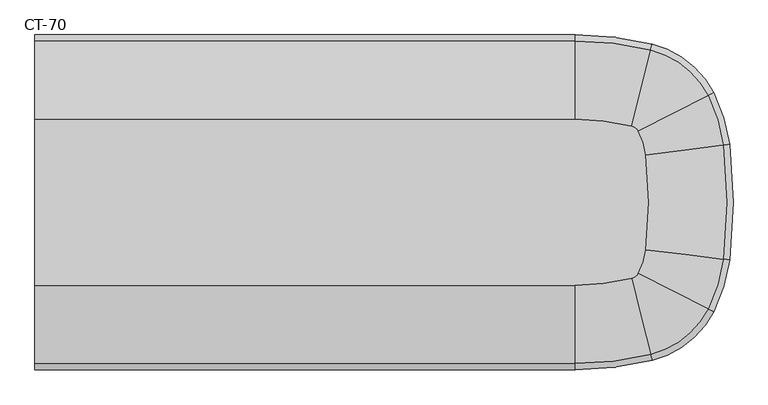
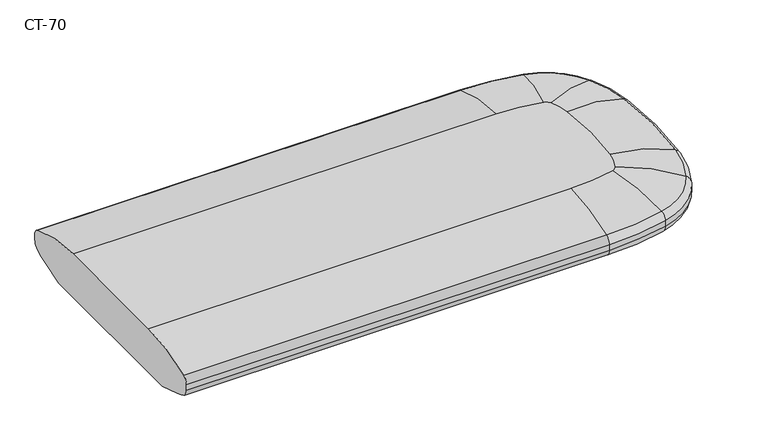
"""IFC4 building model written with IfcOpenShell, lengths in millimetres: furniture geometry, Davis_Furniture-Cantina-Backless_Bench_End : CT-70."""

from ifc_helpers import new_model, si_unit, point, frame, origin, place, context, project, spatial, polyline, circle_curve, ellipse_curve, trimmed, source, transform, mapped, element, save
from ifc_brep_helpers import plane_surface, cylinder_surface, revolved_surface, advanced_brep


def ct_70_526bd046(model_context):
    return source(origin(), model_context, "Body", "AdvancedBrep", [
        advanced_brep(
        [(499.6409128, -297.6255583, 384.3379698), (499.6409128, -297.6255583, 397.7963214), (355.6, -315.0780274, 397.7963214), (355.6, -315.0780274, 384.3379698), (355.6, -304.2732811, 364.5800367), (497.0605174, -287.1334611, 364.5800367), (355.6, -292.5675411, 358.7017243), (494.2649463, -275.7664417, 358.7017243), (355.6, -276.0441436, 352.9828937), (490.3188196, -259.7211699, 352.9828937), (355.6, -215.4858439, 333.8794297), (475.8562537, -200.9152021, 333.8794297), (496.8246288, -286.174319, 415.40969), (461.728152, -143.4691927, 444.5), (355.6, -156.3280274, 444.5), (355.6, -303.2855579, 415.40969), (615.3654955, -206.1477202, 384.3379698), (615.3654955, -206.1477202, 397.7963214), (605.7526212, -201.2146491, 364.5800367), (595.3381418, -195.8702156, 358.7017243), (580.637441, -188.3262075, 352.9828937), (526.7593298, -160.6773957, 333.8794297), (604.8738538, -200.763689, 415.40969), (474.1272144, -133.6679958, 444.5), (645.3484189, -108.6770068, 384.3379698), (645.3484189, -108.6770068, 397.7963214), (634.624926, -107.3544169, 364.5800367), (623.0072151, -105.921538, 358.7017243), (606.6080763, -103.8989381, 352.9828937), (546.505185, -96.4861037, 333.8794297), (633.6446307, -107.2335114, 415.40969), (487.792245, -89.2446999, 444.5), (645.3484189, 108.6770068, 384.3379698), (645.3484189, 108.6770068, 397.7963214), (634.624926, 107.3544169, 364.5800367), (623.0072151, 105.921538, 358.7017243), (606.6080763, 103.8989381, 352.9828937), (546.505185, 96.4861037, 333.8794297), (633.6446307, 107.2335114, 415.40969), (487.792245, 89.2446999, 444.5), (615.3654955, 206.1477202, 384.3379698), (615.3654955, 206.1477202, 397.7963214), (605.7526212, 201.2146491, 364.5800367), (595.3381418, 195.8702156, 358.7017243), (580.637441, 188.3262075, 352.9828937), (526.7593298, 160.6773957, 333.8794297), (604.8738538, 200.763689, 415.40969), (474.1272144, 133.6679958, 444.5), (499.6409128, 297.6255583, 384.3379698), (499.6409128, 297.6255583, 397.7963214), (497.0605174, 287.1334611, 364.5800367), (494.2649463, 275.7664417, 358.7017243), (490.3188196, 259.7211699, 352.9828937), (475.8562537, 200.9152021, 333.8794297), (496.8246288, 286.174319, 415.40969), (461.728152, 143.4691927, 444.5), (355.6, 315.0780274, 384.3379698), (355.6, 315.0780274, 397.7963214), (355.6, 304.2732811, 364.5800367), (355.6, 292.5675411, 358.7017243), (355.6, 276.0441436, 352.9828937), (355.6, 215.4858439, 333.8794297), (355.6, 303.2855579, 415.40969), (355.6, 156.3280274, 444.5), (-660.4, 315.0780274, 384.3379698), (-660.4, 315.0780274, 397.7963214), (-660.4, 304.2732811, 364.5800367), (-660.4, 292.5675411, 358.7017243), (-660.4, 276.0441436, 352.9828937), (-660.4, 215.4858439, 333.8794297), (-660.4, 303.2855579, 415.40969), (-660.4, 156.3280274, 444.5), (-660.4, -315.0780274, 397.7963214), (-660.4, -315.0780274, 384.3379698), (-660.4, -304.2732811, 364.5800367), (-660.4, -292.5675411, 358.7017243), (-660.4, -276.0441436, 352.9828937), (-660.4, -215.4858439, 333.8794297), (-660.4, -156.3280274, 444.5), (-660.4, -303.2855579, 415.40969)],
        [
            (0, 1),
            (1, 2, circle_curve(frame((355.6, 288.0564957, 397.7963214), z_axis=(0.0, 0.0, -1.0), x_axis=(0.0, -1.0, 0.0)), 603.1345231)),
            (2, 3),
            (3, 0, circle_curve(frame((355.6, 288.0564957, 384.3379698), z_axis=(0.0, 0.0, 1.0), x_axis=(0.0, -1.0, 0.0)), 603.1345231)),
            (3, 4, circle_curve(frame((355.6, -291.6106342, 384.3379698), z_axis=(1.0, 0.0, 0.0), x_axis=(0.0, -1.0, 0.0)), 23.4673933)),
            (4, 5, circle_curve(frame((355.6, 288.0564957, 364.5800367), z_axis=(0.0, 0.0, 1.0), x_axis=(0.0, -1.0, 0.0)), 592.3297768)),
            (5, 0, circle_curve(frame((494.0364172, -274.8372241, 384.3379698), z_axis=(-0.971063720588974, -0.23882054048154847, 0.0), x_axis=(0.23882054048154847, -0.971063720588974, 0.0)), 23.4673933)),
            (4, 6, circle_curve(frame((355.6, -270.4128703, 417.4135188), z_axis=(1.0, 0.0, 0.0), x_axis=(0.0, -1.0, 0.0)), 62.7527231)),
            (6, 7, circle_curve(frame((355.6, 288.0564957, 358.7017243), z_axis=(0.0, 0.0, 1.0), x_axis=(0.0, -1.0, 0.0)), 580.6240368)),
            (7, 5, circle_curve(frame((488.9739558, -254.2528447, 417.4135188), z_axis=(-0.9710637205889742, -0.23882054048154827, 0.0), x_axis=(0.23882054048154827, -0.9710637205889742, 0.0)), 62.7527231)),
            (6, 8, circle_curve(frame((355.6, -180.8250787, 654.8289187), z_axis=(1.0, 0.0, 0.0), x_axis=(0.0, -1.0, 0.0)), 316.5085989)),
            (8, 9, circle_curve(frame((355.6, 288.0564957, 352.9828937), z_axis=(0.0, 0.0, 1.0), x_axis=(0.0, -1.0, 0.0)), 564.1006393)),
            (9, 7, circle_curve(frame((467.578551, -167.2573905, 654.8289187), z_axis=(-0.9710637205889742, -0.2388205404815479, 0.0), x_axis=(0.2388205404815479, -0.9710637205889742, 0.0)), 316.5085989)),
            (8, 10),
            (10, 11, circle_curve(frame((355.6, 288.0564957, 333.8794297), z_axis=(0.0, 0.0, 1.0), x_axis=(0.0, -1.0, 0.0)), 503.5423396)),
            (11, 9),
            (12, 13, circle_curve(frame((461.728152, -143.4691927, 58.7570862), z_axis=(-0.971063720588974, -0.23882054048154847, 0.0), x_axis=(0.23882054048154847, -0.971063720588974, 0.0)), 385.7429138)),
            (13, 14, circle_curve(frame((355.6, 288.0564957, 444.5), z_axis=(0.0, 0.0, -1.0), x_axis=(0.0, -1.0, 0.0)), 444.3845231)),
            (14, 15, circle_curve(frame((355.6, -156.3280274, 58.7570862), z_axis=(1.0, 0.0, 0.0), x_axis=(0.0, -1.0, 0.0)), 385.7429138)),
            (15, 12, circle_curve(frame((355.6, 288.0564957, 415.40969), z_axis=(0.0, 0.0, 1.0), x_axis=(0.0, -1.0, 0.0)), 591.3420536)),
            (1, 12, circle_curve(frame((495.0913815, -279.1267945, 397.7963214), z_axis=(-0.971063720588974, -0.23882054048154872, 0.0), x_axis=(0.23882054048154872, -0.971063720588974, 0.0)), 19.05)),
            (15, 2, circle_curve(frame((355.6, -296.0280274, 397.7963214), z_axis=(1.0, 0.0, 0.0), x_axis=(0.0, -1.0, 0.0)), 19.05)),
            (0, 16, circle_curve(frame((457.1786207, -124.9704288, 384.3379698), z_axis=(0.0, 0.0, 1.0), x_axis=(0.2388205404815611, -0.971063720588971, 0.0)), 177.8)),
            (16, 17),
            (17, 1, circle_curve(frame((457.1786207, -124.9704288, 397.7963214), z_axis=(0.0, 0.0, -1.0), x_axis=(0.2388205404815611, -0.971063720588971, 0.0)), 177.8)),
            (5, 18, circle_curve(frame((457.1786207, -124.9704288, 364.5800367), z_axis=(0.0, 0.0, 1.0), x_axis=(0.2388205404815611, -0.971063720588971, 0.0)), 166.9952536)),
            (18, 16, circle_curve(frame((594.4867914, -195.4333252, 384.3379698), z_axis=(-0.4565651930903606, -0.8896899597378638, 0.0), x_axis=(0.8896899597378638, -0.4565651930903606, 0.0)), 23.4673933)),
            (7, 19, circle_curve(frame((457.1786207, -124.9704288, 358.7017243), z_axis=(0.0, 0.0, 1.0), x_axis=(0.2388205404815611, -0.971063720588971, 0.0)), 155.2895137)),
            (19, 18, circle_curve(frame((575.6273537, -185.7551641, 417.4135188), z_axis=(-0.4565651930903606, -0.8896899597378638, 0.0), x_axis=(0.8896899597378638, -0.4565651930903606, 0.0)), 62.7527231)),
            (9, 20, circle_curve(frame((457.1786207, -124.9704288, 352.9828937), z_axis=(0.0, 0.0, 1.0), x_axis=(0.2388205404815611, -0.971063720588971, 0.0)), 138.7661162)),
            (20, 19, circle_curve(frame((495.921995, -144.8524967, 654.8289187), z_axis=(-0.45656519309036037, -0.8896899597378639, 0.0), x_axis=(0.8896899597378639, -0.45656519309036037, 0.0)), 316.5085989)),
            (11, 21, circle_curve(frame((457.1786207, -124.9704288, 333.8794297), z_axis=(0.0, 0.0, 1.0), x_axis=(0.2388205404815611, -0.971063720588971, 0.0)), 78.2078165)),
            (21, 20),
            (12, 22, circle_curve(frame((457.1786207, -124.9704288, 415.40969), z_axis=(0.0, 0.0, 1.0), x_axis=(0.2388205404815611, -0.971063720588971, 0.0)), 166.0075305)),
            (22, 23, circle_curve(frame((474.1272144, -133.6679958, 58.7570862), z_axis=(-0.4565651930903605, -0.8896899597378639, 0.0), x_axis=(0.8896899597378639, -0.4565651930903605, 0.0)), 385.7429138)),
            (23, 13, circle_curve(frame((457.1786207, -124.9704288, 444.5), z_axis=(0.0, 0.0, -1.0), x_axis=(0.2388205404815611, -0.971063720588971, 0.0)), 19.05)),
            (17, 22, circle_curve(frame((598.4169018, -197.4501532, 397.7963214), z_axis=(-0.4565651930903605, -0.8896899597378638, 0.0), x_axis=(0.8896899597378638, -0.4565651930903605, 0.0)), 19.05)),
            (16, 24, circle_curve(frame((355.8505813, -72.9715776, 384.3379698), z_axis=(0.0, 0.0, 1.0), x_axis=(0.8896899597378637, -0.45656519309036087, 0.0)), 291.6914048)),
            (24, 25),
            (25, 17, circle_curve(frame((355.8505813, -72.9715776, 397.7963214), z_axis=(0.0, 0.0, -1.0), x_axis=(0.8896899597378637, -0.45656519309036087, 0.0)), 291.6914048)),
            (18, 26, circle_curve(frame((355.8505813, -72.9715776, 364.5800367), z_axis=(0.0, 0.0, 1.0), x_axis=(0.8896899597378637, -0.45656519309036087, 0.0)), 280.8866585)),
            (26, 24, circle_curve(frame((622.0575043, -105.8044047, 384.3379698), z_axis=(-0.12240823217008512, -0.9924798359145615, 0.0), x_axis=(0.9924798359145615, -0.12240823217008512, 0.0)), 23.4673933)),
            (19, 27, circle_curve(frame((355.8505813, -72.9715776, 358.7017243), z_axis=(0.0, 0.0, 1.0), x_axis=(0.8896899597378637, -0.45656519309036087, 0.0)), 269.1809185)),
            (27, 26, circle_curve(frame((601.0191511, -103.2096239, 417.4135188), z_axis=(-0.12240823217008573, -0.9924798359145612, 0.0), x_axis=(0.9924798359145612, -0.12240823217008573, 0.0)), 62.7527231)),
            (20, 28, circle_curve(frame((355.8505813, -72.9715776, 352.9828937), z_axis=(0.0, 0.0, 1.0), x_axis=(0.8896899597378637, -0.45656519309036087, 0.0)), 252.657521)),
            (28, 27, circle_curve(frame((512.1050744, -92.2433407, 654.8289187), z_axis=(-0.12240823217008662, -0.992479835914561, 0.0), x_axis=(0.992479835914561, -0.12240823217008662, 0.0)), 316.5085989)),
            (21, 29, circle_curve(frame((355.8505813, -72.9715776, 333.8794297), z_axis=(0.0, 0.0, 1.0), x_axis=(0.8896899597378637, -0.45656519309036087, 0.0)), 192.0992213)),
            (29, 28),
            (22, 30, circle_curve(frame((355.8505813, -72.9715776, 415.40969), z_axis=(0.0, 0.0, 1.0), x_axis=(0.8896899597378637, -0.45656519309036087, 0.0)), 279.8989353)),
            (30, 31, circle_curve(frame((487.792245, -89.2446999, 58.7570862), z_axis=(-0.12240823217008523, -0.9924798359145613, 0.0), x_axis=(0.9924798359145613, -0.12240823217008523, 0.0)), 385.7429138)),
            (31, 23, circle_curve(frame((355.8505813, -72.9715776, 444.5), z_axis=(0.0, 0.0, -1.0), x_axis=(0.8896899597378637, -0.45656519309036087, 0.0)), 132.9414048)),
            (25, 30, circle_curve(frame((626.441678, -106.34513, 397.7963214), z_axis=(-0.12240823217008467, -0.9924798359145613, 0.0), x_axis=(0.9924798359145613, -0.12240823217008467, 0.0)), 19.05)),
            (24, 32, circle_curve(frame((-235.7993271, 0.0, 384.3379698), z_axis=(0.0, 0.0, 1.0), x_axis=(0.9924798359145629, -0.12240823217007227, 0.0)), 887.8243307)),
            (32, 33),
            (33, 25, circle_curve(frame((-235.7993271, 0.0, 397.7963214), z_axis=(0.0, 0.0, -1.0), x_axis=(0.9924798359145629, -0.12240823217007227, 0.0)), 887.8243307)),
            (26, 34, circle_curve(frame((-235.7993271, 0.0, 364.5800367), z_axis=(0.0, 0.0, 1.0), x_axis=(0.9924798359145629, -0.12240823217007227, 0.0)), 877.0195843)),
            (34, 32, circle_curve(frame((622.0575043, 105.8044047, 384.3379698), z_axis=(0.12240823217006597, -0.9924798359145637, 0.0), x_axis=(0.9924798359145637, 0.12240823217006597, 0.0)), 23.4673933)),
            (27, 35, circle_curve(frame((-235.7993271, 0.0, 358.7017243), z_axis=(0.0, 0.0, 1.0), x_axis=(0.9924798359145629, -0.12240823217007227, 0.0)), 865.3138443)),
            (35, 34, circle_curve(frame((601.0191511, 103.2096239, 417.4135188), z_axis=(0.12240823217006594, -0.9924798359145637, 0.0), x_axis=(0.9924798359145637, 0.12240823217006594, 0.0)), 62.7527231)),
            (28, 36, circle_curve(frame((-235.7993271, 0.0, 352.9828937), z_axis=(0.0, 0.0, 1.0), x_axis=(0.9924798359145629, -0.12240823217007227, 0.0)), 848.7904469)),
            (36, 35, circle_curve(frame((512.1050744, 92.2433407, 654.8289187), z_axis=(0.122408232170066, -0.9924798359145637, 0.0), x_axis=(0.9924798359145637, 0.122408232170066, 0.0)), 316.5085989)),
            (29, 37, circle_curve(frame((-235.7993271, 0.0, 333.8794297), z_axis=(0.0, 0.0, 1.0), x_axis=(0.9924798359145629, -0.12240823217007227, 0.0)), 788.2321471)),
            (37, 36),
            (30, 38, circle_curve(frame((-235.7993271, 0.0, 415.40969), z_axis=(0.0, 0.0, 1.0), x_axis=(0.9924798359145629, -0.12240823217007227, 0.0)), 876.0318611)),
            (38, 39, circle_curve(frame((487.792245, 89.2446999, 58.7570862), z_axis=(0.12240823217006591, -0.9924798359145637, 0.0), x_axis=(0.9924798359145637, 0.12240823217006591, 0.0)), 385.7429138)),
            (39, 31, circle_curve(frame((-235.7993271, 0.0, 444.5), z_axis=(0.0, 0.0, -1.0), x_axis=(0.9924798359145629, -0.12240823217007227, 0.0)), 729.0743307)),
            (33, 38, circle_curve(frame((626.441678, 106.34513, 397.7963214), z_axis=(0.12240823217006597, -0.9924798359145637, 0.0), x_axis=(0.9924798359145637, 0.12240823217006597, 0.0)), 19.05)),
            (32, 40, circle_curve(frame((355.8505813, 72.9715776, 384.3379698), z_axis=(0.0, 0.0, 1.0), x_axis=(0.9924798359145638, 0.12240823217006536, 0.0)), 291.6914048)),
            (40, 41),
            (41, 33, circle_curve(frame((355.8505813, 72.9715776, 397.7963214), z_axis=(0.0, 0.0, -1.0), x_axis=(0.9924798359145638, 0.12240823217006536, 0.0)), 291.6914048)),
            (34, 42, circle_curve(frame((355.8505813, 72.9715776, 364.5800367), z_axis=(0.0, 0.0, 1.0), x_axis=(0.9924798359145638, 0.12240823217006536, 0.0)), 280.8866585)),
            (42, 40, circle_curve(frame((594.4867914, 195.4333252, 384.3379698), z_axis=(0.4565651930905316, -0.8896899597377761, 0.0), x_axis=(0.8896899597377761, 0.4565651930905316, 0.0)), 23.4673933)),
            (35, 43, circle_curve(frame((355.8505813, 72.9715776, 358.7017243), z_axis=(0.0, 0.0, 1.0), x_axis=(0.9924798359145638, 0.12240823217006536, 0.0)), 269.1809185)),
            (43, 42, circle_curve(frame((575.6273537, 185.7551641, 417.4135188), z_axis=(0.4565651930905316, -0.8896899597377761, 0.0), x_axis=(0.8896899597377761, 0.4565651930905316, 0.0)), 62.7527231)),
            (36, 44, circle_curve(frame((355.8505813, 72.9715776, 352.9828937), z_axis=(0.0, 0.0, 1.0), x_axis=(0.9924798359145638, 0.12240823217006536, 0.0)), 252.657521)),
            (44, 43, circle_curve(frame((495.921995, 144.8524967, 654.8289187), z_axis=(0.45656519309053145, -0.8896899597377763, 0.0), x_axis=(0.8896899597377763, 0.45656519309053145, 0.0)), 316.5085989)),
            (37, 45, circle_curve(frame((355.8505813, 72.9715776, 333.8794297), z_axis=(0.0, 0.0, 1.0), x_axis=(0.9924798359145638, 0.12240823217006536, 0.0)), 192.0992213)),
            (45, 44),
            (38, 46, circle_curve(frame((355.8505813, 72.9715776, 415.40969), z_axis=(0.0, 0.0, 1.0), x_axis=(0.9924798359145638, 0.12240823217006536, 0.0)), 279.8989353)),
            (46, 47, circle_curve(frame((474.1272144, 133.6679958, 58.7570862), z_axis=(0.4565651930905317, -0.8896899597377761, 0.0), x_axis=(0.8896899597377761, 0.4565651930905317, 0.0)), 385.7429138)),
            (47, 39, circle_curve(frame((355.8505813, 72.9715776, 444.5), z_axis=(0.0, 0.0, -1.0), x_axis=(0.9924798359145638, 0.12240823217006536, 0.0)), 132.9414048)),
            (41, 46, circle_curve(frame((598.4169018, 197.4501532, 397.7963214), z_axis=(0.45656519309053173, -0.8896899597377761, 0.0), x_axis=(0.8896899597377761, 0.45656519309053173, 0.0)), 19.05)),
            (40, 48, circle_curve(frame((457.1786207, 124.9704288, 384.3379698), z_axis=(0.0, 0.0, 1.0), x_axis=(0.8896899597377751, 0.45656519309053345, 0.0)), 177.8)),
            (48, 49),
            (49, 41, circle_curve(frame((457.1786207, 124.9704288, 397.7963214), z_axis=(0.0, 0.0, -1.0), x_axis=(0.8896899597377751, 0.45656519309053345, 0.0)), 177.8)),
            (42, 50, circle_curve(frame((457.1786207, 124.9704288, 364.5800367), z_axis=(0.0, 0.0, 1.0), x_axis=(0.8896899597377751, 0.45656519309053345, 0.0)), 166.9952536)),
            (50, 48, circle_curve(frame((494.0364172, 274.8372241, 384.3379698), z_axis=(0.9710637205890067, -0.23882054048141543, 0.0), x_axis=(0.23882054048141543, 0.9710637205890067, 0.0)), 23.4673933)),
            (43, 51, circle_curve(frame((457.1786207, 124.9704288, 358.7017243), z_axis=(0.0, 0.0, 1.0), x_axis=(0.8896899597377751, 0.45656519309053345, 0.0)), 155.2895137)),
            (51, 50, circle_curve(frame((488.9739558, 254.2528447, 417.4135188), z_axis=(0.9710637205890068, -0.2388205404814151, 0.0), x_axis=(0.2388205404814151, 0.9710637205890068, 0.0)), 62.7527231)),
            (44, 52, circle_curve(frame((457.1786207, 124.9704288, 352.9828937), z_axis=(0.0, 0.0, 1.0), x_axis=(0.8896899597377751, 0.45656519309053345, 0.0)), 138.7661162)),
            (52, 51, circle_curve(frame((467.578551, 167.2573905, 654.8289187), z_axis=(0.9710637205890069, -0.23882054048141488, 0.0), x_axis=(0.23882054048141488, 0.9710637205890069, 0.0)), 316.5085989)),
            (45, 53, circle_curve(frame((457.1786207, 124.9704288, 333.8794297), z_axis=(0.0, 0.0, 1.0), x_axis=(0.8896899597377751, 0.45656519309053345, 0.0)), 78.2078165)),
            (53, 52),
            (46, 54, circle_curve(frame((457.1786207, 124.9704288, 415.40969), z_axis=(0.0, 0.0, 1.0), x_axis=(0.8896899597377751, 0.45656519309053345, 0.0)), 166.0075305)),
            (54, 55, circle_curve(frame((461.728152, 143.4691927, 58.7570862), z_axis=(0.9710637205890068, -0.2388205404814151, 0.0), x_axis=(0.2388205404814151, 0.9710637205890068, 0.0)), 385.7429138)),
            (55, 47, circle_curve(frame((457.1786207, 124.9704288, 444.5), z_axis=(0.0, 0.0, -1.0), x_axis=(0.8896899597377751, 0.45656519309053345, 0.0)), 19.05)),
            (49, 54, circle_curve(frame((495.0913815, 279.1267945, 397.7963214), z_axis=(0.9710637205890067, -0.23882054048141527, 0.0), x_axis=(0.23882054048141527, 0.9710637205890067, 0.0)), 19.05)),
            (48, 56, circle_curve(frame((355.6, -288.0564957, 384.3379698), z_axis=(0.0, 0.0, 1.0), x_axis=(0.23882054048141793, 0.9710637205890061, 0.0)), 603.1345231)),
            (56, 57),
            (57, 49, circle_curve(frame((355.6, -288.0564957, 397.7963214), z_axis=(0.0, 0.0, -1.0), x_axis=(0.23882054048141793, 0.9710637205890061, 0.0)), 603.1345231)),
            (50, 58, circle_curve(frame((355.6, -288.0564957, 364.5800367), z_axis=(0.0, 0.0, 1.0), x_axis=(0.23882054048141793, 0.9710637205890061, 0.0)), 592.3297768)),
            (58, 56, circle_curve(frame((355.6, 291.6106342, 384.3379698), z_axis=(1.0, 0.0, 0.0), x_axis=(0.0, 1.0, 0.0)), 23.4673933)),
            (51, 59, circle_curve(frame((355.6, -288.0564957, 358.7017243), z_axis=(0.0, 0.0, 1.0), x_axis=(0.23882054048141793, 0.9710637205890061, 0.0)), 580.6240368)),
            (59, 58, circle_curve(frame((355.6, 270.4128703, 417.4135188), z_axis=(1.0, 0.0, 0.0), x_axis=(0.0, 1.0, 0.0)), 62.7527231)),
            (52, 60, circle_curve(frame((355.6, -288.0564957, 352.9828937), z_axis=(0.0, 0.0, 1.0), x_axis=(0.23882054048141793, 0.9710637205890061, 0.0)), 564.1006393)),
            (60, 59, circle_curve(frame((355.6, 180.8250787, 654.8289187), z_axis=(1.0, 0.0, 0.0), x_axis=(0.0, 1.0, 0.0)), 316.5085989)),
            (53, 61, circle_curve(frame((355.6, -288.0564957, 333.8794297), z_axis=(0.0, 0.0, 1.0), x_axis=(0.23882054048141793, 0.9710637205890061, 0.0)), 503.5423396)),
            (61, 60),
            (54, 62, circle_curve(frame((355.6, -288.0564957, 415.40969), z_axis=(0.0, 0.0, 1.0), x_axis=(0.23882054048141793, 0.9710637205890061, 0.0)), 591.3420536)),
            (62, 63, circle_curve(frame((355.6, 156.3280274, 58.7570862), z_axis=(1.0, 0.0, 0.0), x_axis=(0.0, 1.0, 0.0)), 385.7429138)),
            (63, 55, circle_curve(frame((355.6, -288.0564957, 444.5), z_axis=(0.0, 0.0, -1.0), x_axis=(0.23882054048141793, 0.9710637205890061, 0.0)), 444.3845231)),
            (57, 62, circle_curve(frame((355.6, 296.0280274, 397.7963214), z_axis=(1.0, 0.0, 0.0), x_axis=(0.0, 1.0, 0.0)), 19.05)),
            (56, 64),
            (64, 65),
            (65, 57),
            (58, 66),
            (66, 64, circle_curve(frame((-660.4, 291.6106342, 384.3379698), z_axis=(1.0, 0.0, 0.0), x_axis=(0.0, 1.0, 0.0)), 23.4673933)),
            (59, 67),
            (67, 66, circle_curve(frame((-660.4, 270.4128703, 417.4135188), z_axis=(1.0, 0.0, 0.0), x_axis=(0.0, 1.0, 0.0)), 62.7527231)),
            (60, 68),
            (68, 67, circle_curve(frame((-660.4, 180.8250787, 654.8289187), z_axis=(1.0, 0.0, 0.0), x_axis=(0.0, 1.0, 0.0)), 316.5085989)),
            (61, 69),
            (69, 68),
            (62, 70),
            (70, 71, circle_curve(frame((-660.4, 156.3280274, 58.7570862), z_axis=(1.0, 0.0, 0.0), x_axis=(0.0, 1.0, 0.0)), 385.7429138)),
            (71, 63),
            (65, 70, circle_curve(frame((-660.4, 296.0280274, 397.7963214), z_axis=(1.0, 0.0, 0.0), x_axis=(0.0, 1.0, 0.0)), 19.05)),
            (2, 72),
            (72, 73),
            (73, 3),
            (73, 74, circle_curve(frame((-660.4, -291.6106342, 384.3379698), z_axis=(1.0, 0.0, 0.0), x_axis=(0.0, -1.0, 0.0)), 23.4673933)),
            (74, 4),
            (74, 75, circle_curve(frame((-660.4, -270.4128703, 417.4135188), z_axis=(1.0, 0.0, 0.0), x_axis=(0.0, -1.0, 0.0)), 62.7527231)),
            (75, 6),
            (75, 76, circle_curve(frame((-660.4, -180.8250787, 654.8289187), z_axis=(1.0, 0.0, 0.0), x_axis=(0.0, -1.0, 0.0)), 316.5085989)),
            (76, 8),
            (76, 77),
            (77, 10),
            (77, 69),
            (71, 78),
            (78, 14),
            (78, 79, circle_curve(frame((-660.4, -156.3280274, 58.7570862), z_axis=(1.0, 0.0, 0.0), x_axis=(0.0, -1.0, 0.0)), 385.7429138)),
            (79, 15),
            (79, 72, circle_curve(frame((-660.4, -296.0280274, 397.7963214), z_axis=(1.0, 0.0, 0.0), x_axis=(0.0, -1.0, 0.0)), 19.05)),
        ],
        [
            cylinder_surface(frame((355.6, 288.0564957, 0.0), z_axis=(0.0, 0.0, -1.0), x_axis=(0.0, -1.0, 0.0)), 603.1345231),
            revolved_surface(trimmed(ellipse_curve(frame((355.6, -291.6106342, 384.3379698), z_axis=(1.0, 0.0, 0.0), x_axis=(0.0, -1.0, 0.0)), 23.4673933, 23.4673933), [point((355.6, -315.0780274, 384.3379698))], [point((355.6, -304.2732811, 364.5800367))], True, "CARTESIAN"), (355.6, 288.0564957, 0.0), (0.0, 0.0, -1.0)),
            revolved_surface(trimmed(ellipse_curve(frame((355.6, -270.4128703, 417.4135188), z_axis=(1.0, 0.0, 0.0), x_axis=(0.0, -1.0, 0.0)), 62.7527231, 62.7527231), [point((355.6, -304.2732811, 364.5800367))], [point((355.6, -292.5675411, 358.7017243))], True, "CARTESIAN"), (355.6, 288.0564957, 0.0), (0.0, 0.0, -1.0)),
            revolved_surface(trimmed(ellipse_curve(frame((355.6, -180.8250787, 654.8289187), z_axis=(1.0, 0.0, 0.0), x_axis=(0.0, -1.0, 0.0)), 316.5085989, 316.5085989), [point((355.6, -292.5675411, 358.7017243))], [point((355.6, -276.0441436, 352.9828937))], True, "CARTESIAN"), (355.6, 288.0564957, 0.0), (0.0, 0.0, -1.0)),
            revolved_surface(polyline([(355.6, -276.0441436, 352.9828937), (355.6, -215.4858439, 333.8794297)]), (355.6, 288.0564957, 0.0), (0.0, 0.0, -1.0)),
            revolved_surface(trimmed(ellipse_curve(frame((355.6, -156.3280274, 58.7570862), z_axis=(1.0, 0.0, 0.0), x_axis=(0.0, -1.0, 0.0)), 385.7429138, 385.7429138), [point((355.6, -156.3280274, 444.5))], [point((355.6, -303.2855579, 415.40969))], True, "CARTESIAN"), (355.6, 288.0564957, 0.0), (0.0, 0.0, -1.0)),
            revolved_surface(trimmed(ellipse_curve(frame((355.6, -296.0280274, 397.7963214), z_axis=(1.0, 0.0, 0.0), x_axis=(0.0, -1.0, 0.0)), 19.05, 19.05), [point((355.6, -303.2855579, 415.40969))], [point((355.6, -315.0780274, 397.7963214))], True, "CARTESIAN"), (355.6, 288.0564957, 0.0), (0.0, 0.0, -1.0)),
            cylinder_surface(frame((457.1786207, -124.9704288, 0.0), z_axis=(0.0, 0.0, -1.0), x_axis=(0.2388205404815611, -0.971063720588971, 0.0)), 177.8),
            revolved_surface(trimmed(ellipse_curve(frame((494.0364172, -274.8372241, 384.3379698), z_axis=(0.971063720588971, 0.23882054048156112, 0.0), x_axis=(0.23882054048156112, -0.971063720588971, 0.0)), 23.4673933, 23.4673933), [point((499.6409128, -297.6255583, 384.3379698))], [point((497.0605174, -287.1334611, 364.5800367))], True, "CARTESIAN"), (457.1786207, -124.9704288, 0.0), (0.0, 0.0, -1.0)),
            revolved_surface(trimmed(ellipse_curve(frame((488.9739558, -254.2528447, 417.4135188), z_axis=(0.971063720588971, 0.23882054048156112, 0.0), x_axis=(0.23882054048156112, -0.971063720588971, 0.0)), 62.7527231, 62.7527231), [point((497.0605174, -287.1334611, 364.5800367))], [point((494.2649463, -275.7664417, 358.7017243))], True, "CARTESIAN"), (457.1786207, -124.9704288, 0.0), (0.0, 0.0, -1.0)),
            revolved_surface(trimmed(ellipse_curve(frame((467.578551, -167.2573905, 654.8289187), z_axis=(0.971063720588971, 0.23882054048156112, 0.0), x_axis=(0.23882054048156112, -0.971063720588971, 0.0)), 316.5085989, 316.5085989), [point((494.2649463, -275.7664417, 358.7017243))], [point((490.3188196, -259.7211699, 352.9828937))], True, "CARTESIAN"), (457.1786207, -124.9704288, 0.0), (0.0, 0.0, -1.0)),
            revolved_surface(polyline([(490.3188196, -259.7211699, 352.9828937), (475.8562537, -200.9152021, 333.8794297)]), (457.1786207, -124.9704288, 0.0), (0.0, 0.0, -1.0)),
            revolved_surface(trimmed(ellipse_curve(frame((461.728152, -143.4691927, 58.7570862), z_axis=(0.971063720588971, 0.23882054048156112, 0.0), x_axis=(0.23882054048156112, -0.971063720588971, 0.0)), 385.7429138, 385.7429138), [point((461.728152, -143.4691927, 444.5))], [point((496.8246288, -286.174319, 415.40969))], True, "CARTESIAN"), (457.1786207, -124.9704288, 0.0), (0.0, 0.0, -1.0)),
            revolved_surface(trimmed(ellipse_curve(frame((495.0913815, -279.1267945, 397.7963214), z_axis=(0.971063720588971, 0.23882054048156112, 0.0), x_axis=(0.23882054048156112, -0.971063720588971, 0.0)), 19.05, 19.05), [point((496.8246288, -286.174319, 415.40969))], [point((499.6409128, -297.6255583, 397.7963214))], True, "CARTESIAN"), (457.1786207, -124.9704288, 0.0), (0.0, 0.0, -1.0)),
            cylinder_surface(frame((355.8505813, -72.9715776, 0.0), z_axis=(0.0, 0.0, -1.0), x_axis=(0.8896899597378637, -0.45656519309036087, 0.0)), 291.6914048),
            revolved_surface(trimmed(ellipse_curve(frame((594.4867914, -195.4333252, 384.3379698), z_axis=(0.4565651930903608, 0.8896899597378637, 0.0), x_axis=(0.8896899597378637, -0.4565651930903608, 0.0)), 23.4673933, 23.4673933), [point((615.3654955, -206.1477202, 384.3379698))], [point((605.7526212, -201.2146491, 364.5800367))], True, "CARTESIAN"), (355.8505813, -72.9715776, 0.0), (0.0, 0.0, -1.0)),
            revolved_surface(trimmed(ellipse_curve(frame((575.6273537, -185.7551641, 417.4135188), z_axis=(0.4565651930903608, 0.8896899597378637, 0.0), x_axis=(0.8896899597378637, -0.4565651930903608, 0.0)), 62.7527231, 62.7527231), [point((605.7526212, -201.2146491, 364.5800367))], [point((595.3381418, -195.8702156, 358.7017243))], True, "CARTESIAN"), (355.8505813, -72.9715776, 0.0), (0.0, 0.0, -1.0)),
            revolved_surface(trimmed(ellipse_curve(frame((495.921995, -144.8524967, 654.8289187), z_axis=(0.4565651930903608, 0.8896899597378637, 0.0), x_axis=(0.8896899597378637, -0.4565651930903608, 0.0)), 316.5085989, 316.5085989), [point((595.3381418, -195.8702156, 358.7017243))], [point((580.637441, -188.3262075, 352.9828937))], True, "CARTESIAN"), (355.8505813, -72.9715776, 0.0), (0.0, 0.0, -1.0)),
            revolved_surface(polyline([(580.637441, -188.3262075, 352.9828937), (526.7593298, -160.6773957, 333.8794297)]), (355.8505813, -72.9715776, 0.0), (0.0, 0.0, -1.0)),
            revolved_surface(trimmed(ellipse_curve(frame((474.1272144, -133.6679958, 58.7570862), z_axis=(0.4565651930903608, 0.8896899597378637, 0.0), x_axis=(0.8896899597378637, -0.4565651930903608, 0.0)), 385.7429138, 385.7429138), [point((474.1272144, -133.6679958, 444.5))], [point((604.8738538, -200.763689, 415.40969))], True, "CARTESIAN"), (355.8505813, -72.9715776, 0.0), (0.0, 0.0, -1.0)),
            revolved_surface(trimmed(ellipse_curve(frame((598.4169018, -197.4501532, 397.7963214), z_axis=(0.4565651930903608, 0.8896899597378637, 0.0), x_axis=(0.8896899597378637, -0.4565651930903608, 0.0)), 19.05, 19.05), [point((604.8738538, -200.763689, 415.40969))], [point((615.3654955, -206.1477202, 397.7963214))], True, "CARTESIAN"), (355.8505813, -72.9715776, 0.0), (0.0, 0.0, -1.0)),
            cylinder_surface(frame((-235.7993271, 0.0, 0.0), z_axis=(0.0, 0.0, -1.0), x_axis=(0.9924798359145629, -0.12240823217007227, 0.0)), 887.8243307),
            revolved_surface(trimmed(ellipse_curve(frame((622.0575043, -105.8044047, 384.3379698), z_axis=(0.1224082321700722, 0.9924798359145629, 0.0), x_axis=(0.9924798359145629, -0.1224082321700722, 0.0)), 23.4673933, 23.4673933), [point((645.3484189, -108.6770068, 384.3379698))], [point((634.624926, -107.3544169, 364.5800367))], True, "CARTESIAN"), (-235.7993271, 0.0, 0.0), (0.0, 0.0, -1.0)),
            revolved_surface(trimmed(ellipse_curve(frame((601.0191511, -103.2096239, 417.4135188), z_axis=(0.1224082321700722, 0.9924798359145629, 0.0), x_axis=(0.9924798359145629, -0.1224082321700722, 0.0)), 62.7527231, 62.7527231), [point((634.624926, -107.3544169, 364.5800367))], [point((623.0072151, -105.921538, 358.7017243))], True, "CARTESIAN"), (-235.7993271, 0.0, 0.0), (0.0, 0.0, -1.0)),
            revolved_surface(trimmed(ellipse_curve(frame((512.1050744, -92.2433407, 654.8289187), z_axis=(0.1224082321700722, 0.9924798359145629, 0.0), x_axis=(0.9924798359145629, -0.1224082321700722, 0.0)), 316.5085989, 316.5085989), [point((623.0072151, -105.921538, 358.7017243))], [point((606.6080763, -103.8989381, 352.9828937))], True, "CARTESIAN"), (-235.7993271, 0.0, 0.0), (0.0, 0.0, -1.0)),
            revolved_surface(polyline([(606.6080763, -103.8989381, 352.9828937), (546.505185, -96.4861037, 333.8794297)]), (-235.7993271, 0.0, 0.0), (0.0, 0.0, -1.0)),
            revolved_surface(trimmed(ellipse_curve(frame((487.792245, -89.2446999, 58.7570862), z_axis=(0.1224082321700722, 0.9924798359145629, 0.0), x_axis=(0.9924798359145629, -0.1224082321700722, 0.0)), 385.7429138, 385.7429138), [point((487.792245, -89.2446999, 444.5))], [point((633.6446307, -107.2335114, 415.40969))], True, "CARTESIAN"), (-235.7993271, 0.0, 0.0), (0.0, 0.0, -1.0)),
            revolved_surface(trimmed(ellipse_curve(frame((626.441678, -106.34513, 397.7963214), z_axis=(0.1224082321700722, 0.9924798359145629, 0.0), x_axis=(0.9924798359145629, -0.1224082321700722, 0.0)), 19.05, 19.05), [point((633.6446307, -107.2335114, 415.40969))], [point((645.3484189, -108.6770068, 397.7963214))], True, "CARTESIAN"), (-235.7993271, 0.0, 0.0), (0.0, 0.0, -1.0)),
            cylinder_surface(frame((355.8505813, 72.9715776, 0.0), z_axis=(0.0, 0.0, -1.0), x_axis=(0.9924798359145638, 0.12240823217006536, 0.0)), 291.6914048),
            revolved_surface(trimmed(ellipse_curve(frame((622.0575043, 105.8044047, 384.3379698), z_axis=(-0.12240823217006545, 0.9924798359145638, 0.0), x_axis=(0.9924798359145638, 0.12240823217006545, 0.0)), 23.4673933, 23.4673933), [point((645.3484189, 108.6770068, 384.3379698))], [point((634.624926, 107.3544169, 364.5800367))], True, "CARTESIAN"), (355.8505813, 72.9715776, 0.0), (0.0, 0.0, -1.0)),
            revolved_surface(trimmed(ellipse_curve(frame((601.0191511, 103.2096239, 417.4135188), z_axis=(-0.12240823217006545, 0.9924798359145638, 0.0), x_axis=(0.9924798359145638, 0.12240823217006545, 0.0)), 62.7527231, 62.7527231), [point((634.624926, 107.3544169, 364.5800367))], [point((623.0072151, 105.921538, 358.7017243))], True, "CARTESIAN"), (355.8505813, 72.9715776, 0.0), (0.0, 0.0, -1.0)),
            revolved_surface(trimmed(ellipse_curve(frame((512.1050744, 92.2433407, 654.8289187), z_axis=(-0.12240823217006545, 0.9924798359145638, 0.0), x_axis=(0.9924798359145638, 0.12240823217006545, 0.0)), 316.5085989, 316.5085989), [point((623.0072151, 105.921538, 358.7017243))], [point((606.6080763, 103.8989381, 352.9828937))], True, "CARTESIAN"), (355.8505813, 72.9715776, 0.0), (0.0, 0.0, -1.0)),
            revolved_surface(polyline([(606.6080763, 103.8989381, 352.9828937), (546.505185, 96.4861037, 333.8794297)]), (355.8505813, 72.9715776, 0.0), (0.0, 0.0, -1.0)),
            revolved_surface(trimmed(ellipse_curve(frame((487.792245, 89.2446999, 58.7570862), z_axis=(-0.12240823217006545, 0.9924798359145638, 0.0), x_axis=(0.9924798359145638, 0.12240823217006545, 0.0)), 385.7429138, 385.7429138), [point((487.792245, 89.2446999, 444.5))], [point((633.6446307, 107.2335114, 415.40969))], True, "CARTESIAN"), (355.8505813, 72.9715776, 0.0), (0.0, 0.0, -1.0)),
            revolved_surface(trimmed(ellipse_curve(frame((626.441678, 106.34513, 397.7963214), z_axis=(-0.12240823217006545, 0.9924798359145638, 0.0), x_axis=(0.9924798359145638, 0.12240823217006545, 0.0)), 19.05, 19.05), [point((633.6446307, 107.2335114, 415.40969))], [point((645.3484189, 108.6770068, 397.7963214))], True, "CARTESIAN"), (355.8505813, 72.9715776, 0.0), (0.0, 0.0, -1.0)),
            cylinder_surface(frame((457.1786207, 124.9704288, 0.0), z_axis=(0.0, 0.0, -1.0), x_axis=(0.8896899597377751, 0.45656519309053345, 0.0)), 177.8),
            revolved_surface(trimmed(ellipse_curve(frame((594.4867914, 195.4333252, 384.3379698), z_axis=(-0.45656519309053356, 0.8896899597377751, 0.0), x_axis=(0.8896899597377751, 0.45656519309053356, 0.0)), 23.4673933, 23.4673933), [point((615.3654955, 206.1477202, 384.3379698))], [point((605.7526212, 201.2146491, 364.5800367))], True, "CARTESIAN"), (457.1786207, 124.9704288, 0.0), (0.0, 0.0, -1.0)),
            revolved_surface(trimmed(ellipse_curve(frame((575.6273537, 185.7551641, 417.4135188), z_axis=(-0.45656519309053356, 0.8896899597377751, 0.0), x_axis=(0.8896899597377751, 0.45656519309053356, 0.0)), 62.7527231, 62.7527231), [point((605.7526212, 201.2146491, 364.5800367))], [point((595.3381418, 195.8702156, 358.7017243))], True, "CARTESIAN"), (457.1786207, 124.9704288, 0.0), (0.0, 0.0, -1.0)),
            revolved_surface(trimmed(ellipse_curve(frame((495.921995, 144.8524967, 654.8289187), z_axis=(-0.45656519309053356, 0.8896899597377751, 0.0), x_axis=(0.8896899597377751, 0.45656519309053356, 0.0)), 316.5085989, 316.5085989), [point((595.3381418, 195.8702156, 358.7017243))], [point((580.637441, 188.3262075, 352.9828937))], True, "CARTESIAN"), (457.1786207, 124.9704288, 0.0), (0.0, 0.0, -1.0)),
            revolved_surface(polyline([(580.637441, 188.3262075, 352.9828937), (526.7593298, 160.6773957, 333.8794297)]), (457.1786207, 124.9704288, 0.0), (0.0, 0.0, -1.0)),
            revolved_surface(trimmed(ellipse_curve(frame((474.1272144, 133.6679958, 58.7570862), z_axis=(-0.45656519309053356, 0.8896899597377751, 0.0), x_axis=(0.8896899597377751, 0.45656519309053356, 0.0)), 385.7429138, 385.7429138), [point((474.1272144, 133.6679958, 444.5))], [point((604.8738538, 200.763689, 415.40969))], True, "CARTESIAN"), (457.1786207, 124.9704288, 0.0), (0.0, 0.0, -1.0)),
            revolved_surface(trimmed(ellipse_curve(frame((598.4169018, 197.4501532, 397.7963214), z_axis=(-0.45656519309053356, 0.8896899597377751, 0.0), x_axis=(0.8896899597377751, 0.45656519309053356, 0.0)), 19.05, 19.05), [point((604.8738538, 200.763689, 415.40969))], [point((615.3654955, 206.1477202, 397.7963214))], True, "CARTESIAN"), (457.1786207, 124.9704288, 0.0), (0.0, 0.0, -1.0)),
            cylinder_surface(frame((355.6, -288.0564957, 0.0), z_axis=(0.0, 0.0, -1.0), x_axis=(0.23882054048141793, 0.9710637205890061, 0.0)), 603.1345231),
            revolved_surface(trimmed(ellipse_curve(frame((494.0364172, 274.8372241, 384.3379698), z_axis=(-0.9710637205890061, 0.23882054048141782, 0.0), x_axis=(0.23882054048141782, 0.9710637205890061, 0.0)), 23.4673933, 23.4673933), [point((499.6409128, 297.6255583, 384.3379698))], [point((497.0605174, 287.1334611, 364.5800367))], True, "CARTESIAN"), (355.6, -288.0564957, 0.0), (0.0, 0.0, -1.0)),
            revolved_surface(trimmed(ellipse_curve(frame((488.9739558, 254.2528447, 417.4135188), z_axis=(-0.9710637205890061, 0.23882054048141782, 0.0), x_axis=(0.23882054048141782, 0.9710637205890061, 0.0)), 62.7527231, 62.7527231), [point((497.0605174, 287.1334611, 364.5800367))], [point((494.2649463, 275.7664417, 358.7017243))], True, "CARTESIAN"), (355.6, -288.0564957, 0.0), (0.0, 0.0, -1.0)),
            revolved_surface(trimmed(ellipse_curve(frame((467.578551, 167.2573905, 654.8289187), z_axis=(-0.9710637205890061, 0.23882054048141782, 0.0), x_axis=(0.23882054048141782, 0.9710637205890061, 0.0)), 316.5085989, 316.5085989), [point((494.2649463, 275.7664417, 358.7017243))], [point((490.3188196, 259.7211699, 352.9828937))], True, "CARTESIAN"), (355.6, -288.0564957, 0.0), (0.0, 0.0, -1.0)),
            revolved_surface(polyline([(490.3188196, 259.7211699, 352.9828937), (475.8562537, 200.9152021, 333.8794297)]), (355.6, -288.0564957, 0.0), (0.0, 0.0, -1.0)),
            revolved_surface(trimmed(ellipse_curve(frame((461.728152, 143.4691927, 58.7570862), z_axis=(-0.9710637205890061, 0.23882054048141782, 0.0), x_axis=(0.23882054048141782, 0.9710637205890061, 0.0)), 385.7429138, 385.7429138), [point((461.728152, 143.4691927, 444.5))], [point((496.8246288, 286.174319, 415.40969))], True, "CARTESIAN"), (355.6, -288.0564957, 0.0), (0.0, 0.0, -1.0)),
            revolved_surface(trimmed(ellipse_curve(frame((495.0913815, 279.1267945, 397.7963214), z_axis=(-0.9710637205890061, 0.23882054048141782, 0.0), x_axis=(0.23882054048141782, 0.9710637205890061, 0.0)), 19.05, 19.05), [point((496.8246288, 286.174319, 415.40969))], [point((499.6409128, 297.6255583, 397.7963214))], True, "CARTESIAN"), (355.6, -288.0564957, 0.0), (0.0, 0.0, -1.0)),
            plane_surface(frame((355.6, 315.0780274, 397.7963214), z_axis=(0.0, 1.0, 0.0), x_axis=(-1.0, 0.0, 0.0))),
            cylinder_surface(frame((355.6, 291.6106342, 384.3379698), z_axis=(1.0, 0.0, 0.0), x_axis=(0.0, 1.0, 0.0)), 23.4673933),
            cylinder_surface(frame((355.6, 270.4128703, 417.4135188), z_axis=(1.0, 0.0, 0.0), x_axis=(0.0, 1.0, 0.0)), 62.7527231),
            cylinder_surface(frame((355.6, 180.8250787, 654.8289187), z_axis=(1.0, 0.0, 0.0), x_axis=(0.0, 1.0, 0.0)), 316.5085989),
            plane_surface(frame((355.6, 276.0441436, 352.9828937), z_axis=(0.0, 0.3008419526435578, -0.9536740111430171), x_axis=(-1.0, 0.0, 0.0))),
            cylinder_surface(frame((355.6, 156.3280274, 58.7570862), z_axis=(1.0, 0.0, 0.0), x_axis=(0.0, 1.0, 0.0)), 385.7429138),
            cylinder_surface(frame((355.6, 296.0280274, 397.7963214), z_axis=(1.0, 0.0, 0.0), x_axis=(0.0, 1.0, 0.0)), 19.05),
            plane_surface(frame((-660.4, -315.0780274, 397.7963214), z_axis=(0.0, -1.0, 0.0), x_axis=(1.0, 0.0, 0.0))),
            cylinder_surface(frame((-660.4, -291.6106342, 384.3379698), z_axis=(-1.0, 0.0, 0.0), x_axis=(0.0, -1.0, 0.0)), 23.4673933),
            cylinder_surface(frame((-660.4, -270.4128703, 417.4135188), z_axis=(-1.0, 0.0, 0.0), x_axis=(0.0, -1.0, 0.0)), 62.7527231),
            cylinder_surface(frame((-660.4, -180.8250787, 654.8289187), z_axis=(-1.0, 0.0, 0.0), x_axis=(0.0, -1.0, 0.0)), 316.5085989),
            plane_surface(frame((-660.4, -276.0441436, 352.9828937), z_axis=(0.0, -0.30084195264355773, -0.9536740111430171), x_axis=(1.0, 0.0, 0.0))),
            plane_surface(frame((-660.4, -215.4858439, 333.8794297), z_axis=(0.0, 0.0, -1.0), x_axis=(1.0, 0.0, 0.0))),
            plane_surface(frame((-660.4, -149.9780274, 444.5), z_axis=(0.0, 0.0, 1.0), x_axis=(1.0, 0.0, 0.0))),
            cylinder_surface(frame((-660.4, -156.3280274, 58.7570862), z_axis=(-1.0, 0.0, 0.0), x_axis=(0.0, -1.0, 0.0)), 385.7429138),
            cylinder_surface(frame((-660.4, -296.0280274, 397.7963214), z_axis=(-1.0, 0.0, 0.0), x_axis=(0.0, -1.0, 0.0)), 19.05),
            plane_surface(frame((-660.4, 149.9780274, 0.0), z_axis=(-1.0, 0.0, 0.0), x_axis=(0.0, 0.0, 1.0))),
        ],
        [
            (0, [[1, 2, 3, 4]]),
            (1, [[5, 6, 7, -4]]),
            (2, [[8, 9, 10, -6]]),
            (3, [[11, 12, 13, -9]]),
            (4, [[14, 15, 16, -12]]),
            (5, [[17, 18, 19, 20]]),
            (6, [[21, -20, 22, -2]]),
            (7, [[23, 24, 25, -1]]),
            (8, [[26, 27, -23, -7]]),
            (9, [[28, 29, -26, -10]]),
            (10, [[30, 31, -28, -13]]),
            (11, [[32, 33, -30, -16]]),
            (12, [[34, 35, 36, -17]]),
            (13, [[-25, 37, -34, -21]]),
            (14, [[38, 39, 40, -24]]),
            (15, [[41, 42, -38, -27]]),
            (16, [[43, 44, -41, -29]]),
            (17, [[45, 46, -43, -31]]),
            (18, [[47, 48, -45, -33]]),
            (19, [[49, 50, 51, -35]]),
            (20, [[-40, 52, -49, -37]]),
            (21, [[53, 54, 55, -39]]),
            (22, [[56, 57, -53, -42]]),
            (23, [[58, 59, -56, -44]]),
            (24, [[60, 61, -58, -46]]),
            (25, [[62, 63, -60, -48]]),
            (26, [[64, 65, 66, -50]]),
            (27, [[-55, 67, -64, -52]]),
            (28, [[68, 69, 70, -54]]),
            (29, [[71, 72, -68, -57]]),
            (30, [[73, 74, -71, -59]]),
            (31, [[75, 76, -73, -61]]),
            (32, [[77, 78, -75, -63]]),
            (33, [[79, 80, 81, -65]]),
            (34, [[-70, 82, -79, -67]]),
            (35, [[83, 84, 85, -69]]),
            (36, [[86, 87, -83, -72]]),
            (37, [[88, 89, -86, -74]]),
            (38, [[90, 91, -88, -76]]),
            (39, [[92, 93, -90, -78]]),
            (40, [[94, 95, 96, -80]]),
            (41, [[-85, 97, -94, -82]]),
            (42, [[98, 99, 100, -84]]),
            (43, [[101, 102, -98, -87]]),
            (44, [[103, 104, -101, -89]]),
            (45, [[105, 106, -103, -91]]),
            (46, [[107, 108, -105, -93]]),
            (47, [[109, 110, 111, -95]]),
            (48, [[-100, 112, -109, -97]]),
            (49, [[113, 114, 115, -99]]),
            (50, [[116, 117, -113, -102]]),
            (51, [[118, 119, -116, -104]]),
            (52, [[120, 121, -118, -106]]),
            (53, [[122, 123, -120, -108]]),
            (54, [[124, 125, 126, -110]]),
            (55, [[-115, 127, -124, -112]]),
            (56, [[128, 129, 130, -3]]),
            (57, [[-130, 131, 132, -5]]),
            (58, [[-132, 133, 134, -8]]),
            (59, [[-134, 135, 136, -11]]),
            (60, [[-136, 137, 138, -14]]),
            (61, [[-138, 139, -122, -107, -92, -77, -62, -47, -32, -15]]),
            (62, [[-36, -51, -66, -81, -96, -111, -126, 140, 141, -18]]),
            (63, [[-141, 142, 143, -19]]),
            (64, [[-143, 144, -128, -22]]),
            (65, [[-117, -119, -121, -123, -139, -137, -135, -133, -131, -129, -144, -142, -140, -125, -127, -114]]),
        ],
    ),
    ])


if __name__ == "__main__":
    model = new_model("IFC4")
    model_context = context("Model", 3, world=origin())
    ifc_project = project(units=[si_unit("LENGTHUNIT", "METRE", prefix="MILLI")], contexts=[model_context])
    site = spatial("IfcSite", under=ifc_project)
    building = spatial("IfcBuilding", under=site)
    placement = place(None, origin())
    ct_70_shape = ct_70_526bd046(model_context)
    element("IfcFurniture", 1, ObjectType="Davis_Furniture-Cantina-Backless_Bench_End : CT-70", at=placement, inside=building, context=model_context, shape_type="MappedRepresentation", body=[
        mapped(ct_70_shape, transform((0.0, 0.0, 0.0), x_axis=(1.0, 0.0, 0.0), y_axis=(0.0, 1.0, 0.0), z_axis=(0.0, 0.0, 1.0))),
    ])
    save(model, "model.ifc")
